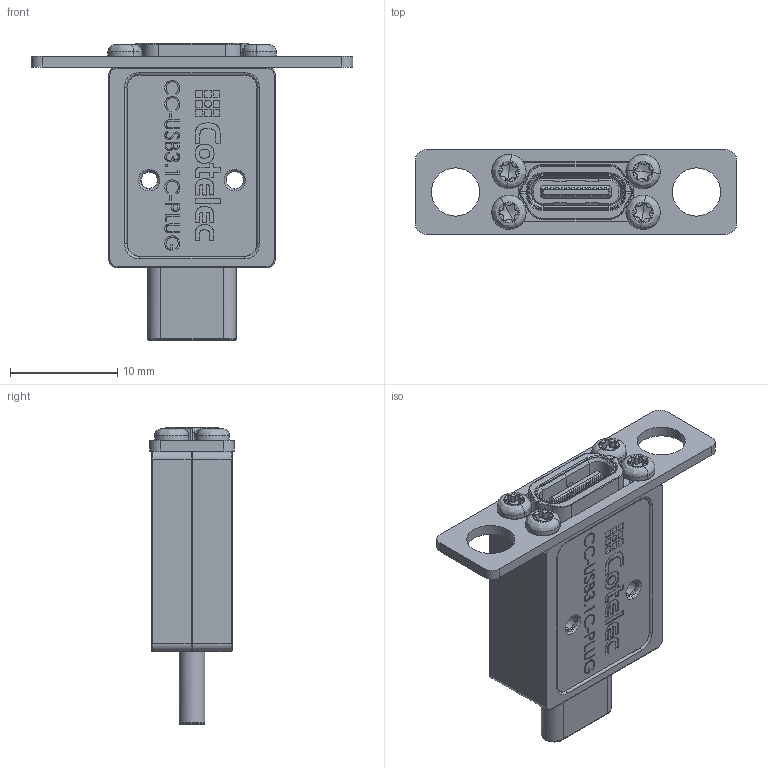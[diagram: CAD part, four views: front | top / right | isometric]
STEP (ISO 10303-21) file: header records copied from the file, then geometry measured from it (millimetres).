
FILE_DESCRIPTION (( 'STEP AP214' ), '1' );
FILE_NAME ('USB-C - Fixation AR droite.STEP', '2024-07-10T12:56:40', ( '' ), ( '' ), 'SwSTEP 2.0', 'SolidWorks 2015', '' );
FILE_SCHEMA (( 'AUTOMOTIVE_DESIGN' ));
Length unit declared in the file: millimetre
Products named in the file (11): 8124_108; USB-C - Fixation AR droite; Type-C femelle; Vis M1.6x4; 8124_072-B USB type C; 8124_105; 8124_003_USB-C; 8124_106; 8124_107; Type-C Male; 8124_103
Assembly tree (13 placements, depth 3):
  USB-C - Fixation AR droite
    8124_103
    8124_003_USB-C
      Type-C Male
      Type-C femelle
      8124_072-B USB type C
    8124_106
    8124_108
    8124_105
    Vis M1.6x4  x4
    8124_107
Bounding box: 30 x 7.9 x 27.74 mm (x, y, z)
Volume: 1679 mm3; surface area: 5612 mm2
Topology: 12 solids, 19 shells, 5601 faces, 15269 edges, 9705 vertices
Faces by surface type: plane 2591, cylinder 1958, bspline 674, cone 158, torus 127, sphere 93
Entity records: 193839 total; most frequent: CARTESIAN_POINT 62678, ORIENTED_EDGE 29150, DIRECTION 24889, EDGE_CURVE 14575, VERTEX_POINT 9363, VECTOR 8895, LINE 8895, AXIS2_PLACEMENT_3D 7997
